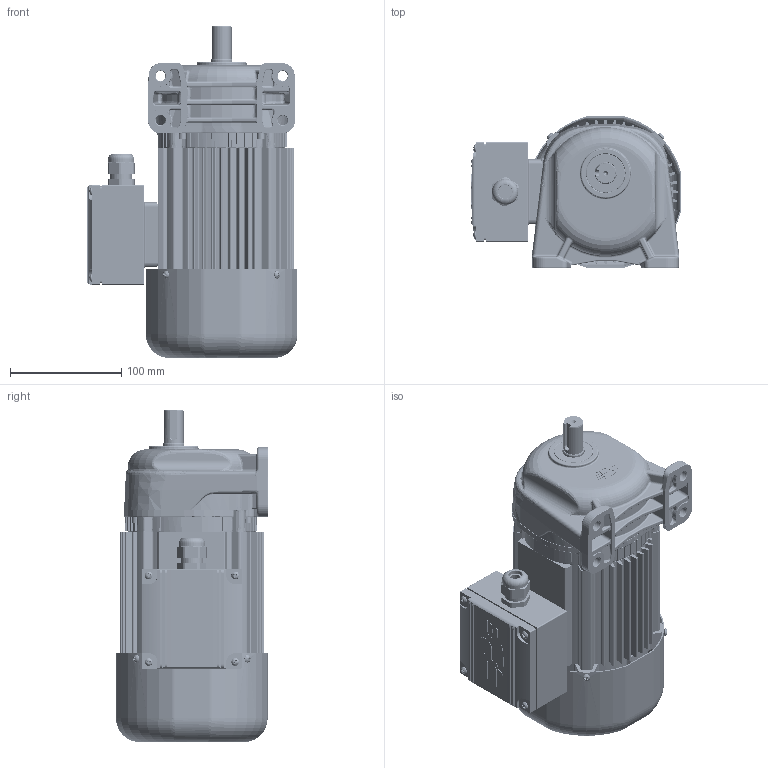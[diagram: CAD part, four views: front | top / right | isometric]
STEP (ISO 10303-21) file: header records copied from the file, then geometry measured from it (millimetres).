
FILE_DESCRIPTION(/* description */ (''),/* implementation_level */ '2;1');
FILE_NAME(/* name */ 'Z:\동력 3D 파일\PAL18-(5~25)-MC(D)020[ ]L_(3D).stp',/* time_stamp */ '2021-03-18T15:28:30+09:00',/* author */ ('jaebok'),/* organization */ (''),/* preprocessor_version */ 'ST-DEVELOPER v16.13',/* originating_system */ 'Autodesk Inventor 2018',/* authorisation */ '');
FILE_SCHEMA (('AUTOMOTIVE_DESIGN { 1 0 10303 214 3 1 1 }'));
Products named in the file (1): 부품110
Bounding box: 189.7 x 136.7 x 299 mm (x, y, z)
Volume: 1267888.3 mm3; surface area: 501431.2 mm2
Topology: 3 solids, 34 shells, 3712 faces, 9356 edges, 5675 vertices
Faces by surface type: plane 1254, cylinder 1106, bspline 750, torus 295, cone 215, sphere 92
Full cylindrical faces by diameter (mm): 1.5 x2, 2 x5, 3 x4, 3.242 x4, 3.25 x1, 3.3 x8, 3.4 x4, 3.6 x4, 3.8 x3, 4 x24, 4.2 x9, 4.5 x4, 4.917 x4, 5 x21, 5.8 x2, 5.9 x3, 6 x13, 6.4 x1, 6.5 x10, 7 x16, 7.9 x6, 8 x4, 8.5 x1, 8.7 x1, 9 x4, 10 x1, 12 x1, 12.5 x1, 13 x1, 15 x1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
Entity records: 136114 total; most frequent: CARTESIAN_POINT 49036, DIRECTION 17743, ORIENTED_EDGE 17500, EDGE_CURVE 8743, AXIS2_PLACEMENT_3D 7312, VERTEX_POINT 5553, EDGE_LOOP 4292, ADVANCED_FACE 3712
